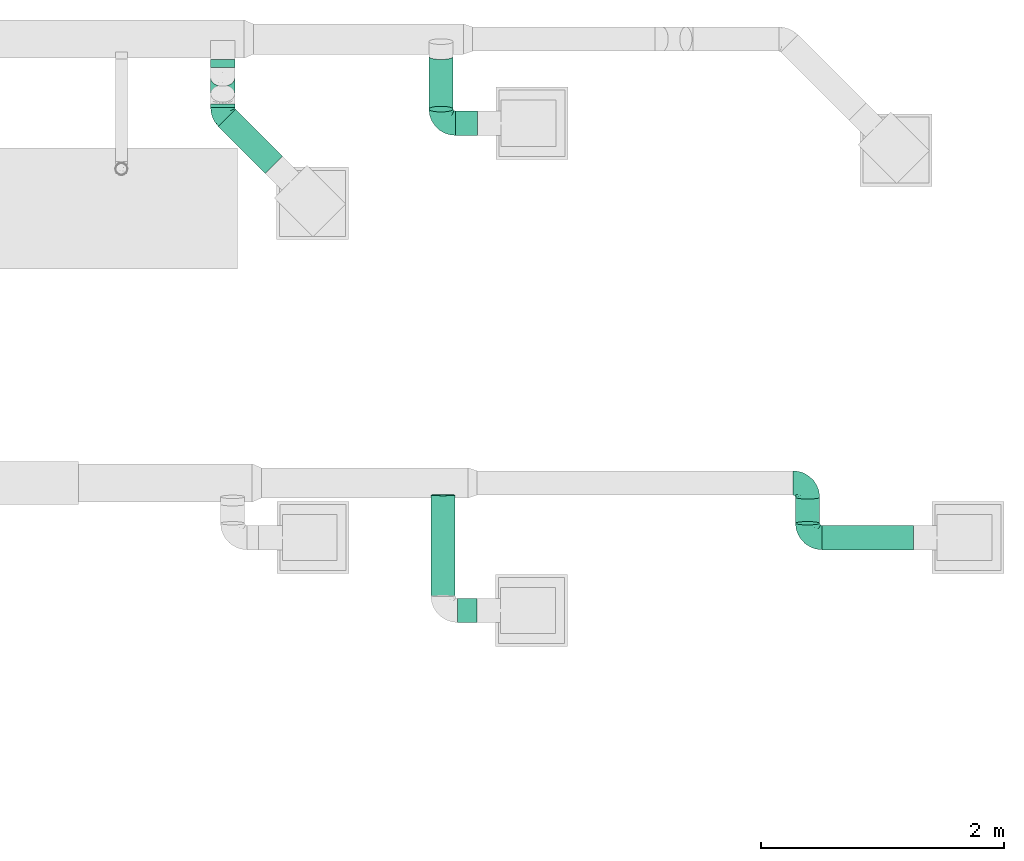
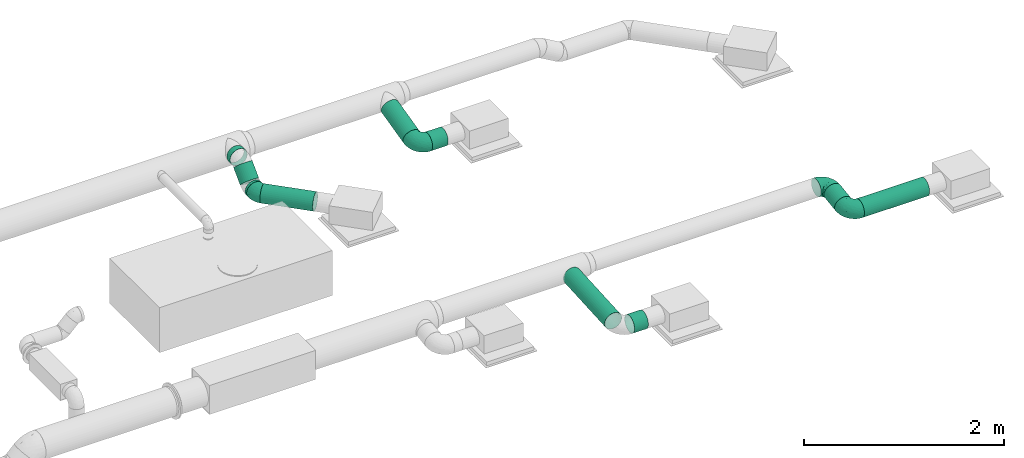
# One storey, part 6 of 16: 10 flow segments, 4 flow fittings.
"""IFC2X3 building model written with IfcOpenShell, lengths in millimetres."""

from ifc_helpers import new_model, entity, si_unit, converted_unit, derived_unit, direction, frame, origin_with_axes, origin_2d_with_axis, place, context, subcontext, project, spatial, hollow_circle, extrude, open_shell, surface_model, source, transform, mapped, type_object, element, save


model = new_model("IFC2X3")

# Units and contexts
model_context = context("Model", 3, precision=0.01, world=frame((0.0, 4.29681676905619e-09, 0.0)), true_north=direction((4.01073788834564e-13, 1.0)))
plan_context = context("Plan", 3, precision=0.01, world=frame((0.0, 4.29681676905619e-09, 0.0)), true_north=direction((4.01073788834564e-13, 1.0)))
body_context = subcontext(model_context, "Body", "Model", "MODEL_VIEW")
ifc_project = project(units=[converted_unit("PLANEANGLEUNIT", "DEGREE", entity("IfcPositiveLengthMeasure", 0.0174532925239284), si_unit("PLANEANGLEUNIT", "RADIAN"), dimensions=[0, 0, 0, 0, 0, 0, 0]), si_unit("AREAUNIT", "SQUARE_METRE"), si_unit("LENGTHUNIT", "METRE", prefix="MILLI"), si_unit("MASSUNIT", "GRAM", prefix="KILO"), si_unit("POWERUNIT", "WATT"), si_unit("PRESSUREUNIT", "PASCAL"), si_unit("FORCEUNIT", "NEWTON", prefix="KILO"), si_unit("ELECTRICVOLTAGEUNIT", "VOLT"), si_unit("ELECTRICCURRENTUNIT", "AMPERE"), si_unit("THERMODYNAMICTEMPERATUREUNIT", "DEGREE_CELSIUS"), si_unit("TIMEUNIT", "SECOND"), si_unit("VOLUMEUNIT", "CUBIC_METRE"), derived_unit("LINEARVELOCITYUNIT", [(si_unit("LENGTHUNIT", "METRE"), 1), (si_unit("TIMEUNIT", "SECOND"), -1)]), derived_unit("VOLUMETRICFLOWRATEUNIT", [(si_unit("VOLUMEUNIT", "CUBIC_METRE"), 1), (si_unit("TIMEUNIT", "SECOND"), -1)]), derived_unit("THERMALTRANSMITTANCEUNIT", [(si_unit("POWERUNIT", "WATT"), 1), (si_unit("THERMODYNAMICTEMPERATUREUNIT", "KELVIN"), -1), (si_unit("AREAUNIT", "SQUARE_METRE"), -1)]), derived_unit("SOUNDPRESSUREUNIT", [(si_unit("PRESSUREUNIT", "PASCAL"), 1)])], contexts=[model_context, plan_context])

# Site, building, storey
site_placement = place(None, frame((0.0, -4.29681676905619e-09, 0.0), z_axis=(0.0, 0.0, 1.0), x_axis=(1.0, 0.0, 0.0)))
site = spatial("IfcSite", under=ifc_project, at=site_placement, Name="ENGM", CompositionType="ELEMENT")
building_placement = place(site_placement, frame((0.0, 4.29681676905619e-09, 0.0), z_axis=(0.0, 0.0, 1.0), x_axis=(1.0, 0.0, 0.0)))
building = spatial("IfcBuilding", under=site, at=building_placement, Name="TH", CompositionType="ELEMENT")
storey_placement = place(building_placement, frame((0.0, 0.0, 210200.0), z_axis=(0.0, 0.0, 1.0), x_axis=(1.0, 0.0, 0.0)))
storey = spatial("IfcBuildingStorey", under=building, at=storey_placement, Name="Nivå F - 0,7 m", CompositionType="ELEMENT", Elevation=210200.0)

# Flow fittings
duct_fitting_type = type_object("IfcDuctFittingType", Name="magicirc_elbow_short_001", PredefinedType="BEND")
shared_shape_1 = source(origin_with_axes(), body_context, "Body", "SurfaceModel", [
    surface_model("IfcShellBasedSurfaceModel", [(-120.0, 0.0, -100.0), (-120.0, -86.60254, -50.0), (-120.0, 25.8819, -96.59259), (-120.0, 50.0, -86.60254), (-120.0, 70.71068, -70.71068), (-120.0, 96.59259, -25.8819), (-120.0, 86.60254, -50.0), (-120.0, -50.0, -86.60254), (-120.0, -70.71068, -70.71068), (-120.0, -25.8819, -96.59259), (-120.0, -96.59259, -25.8819), (-120.0, -100.0, 0.0), (-120.0, 96.59259, 25.8819), (-120.0, -96.59259, 25.8819), (-120.0, 86.60254, 50.0), (-120.0, 25.8819, 96.59259), (-120.0, 50.0, 86.60254), (-120.0, 70.71068, 70.71068), (-120.0, -25.8819, 96.59259), (-120.0, -70.71068, 70.71068), (-120.0, -50.0, 86.60254), (-120.0, -86.60254, 50.0), (-120.0, 0.0, 100.0), (-120.0, 100.0, 0.0), (-25.8819, 120.0, -96.59259), (70.71068, 120.0, -70.71068), (0.0, 120.0, -100.0), (-70.71068, 120.0, -70.71068), (-50.0, 120.0, -86.60254), (-86.60254, 120.0, -50.0), (-96.59259, 120.0, -25.8819), (86.60254, 120.0, -50.0), (25.8819, 120.0, -96.59259), (50.0, 120.0, -86.60254), (100.0, 120.0, 0.0), (96.59259, 120.0, -25.8819), (-96.59259, 120.0, 25.8819), (96.59259, 120.0, 25.8819), (-25.8819, 120.0, 96.59259), (-86.60254, 120.0, 50.0), (-70.71068, 120.0, 70.71068), (-50.0, 120.0, 86.60254), (25.8819, 120.0, 96.59259), (86.60254, 120.0, 50.0), (50.0, 120.0, 86.60254), (70.71068, 120.0, 70.71068), (0.0, 120.0, 100.0), (-100.0, 120.0, 0.0), (-57.47657, 95.22229, 84.95805), (-85.33946, -92.96309, 28.79275), (-95.20929, -97.20676, 0.0), (-84.48473, -65.01559, 72.95431), (-52.96075, -70.60035, 57.16979), (-58.29219, -58.77958, 72.2572), (-71.0454, -94.48414, 0.0), (-33.46621, 86.30074, 96.24781), (-7.45333, 88.76819, 99.94878), (-26.53059, -25.83103, 84.66541), (5.23459, -24.1841, 70.44192), (-1.23107, 1.23105, 87.74618), (-103.71213, 103.71213, 24.44784), (-95.28171, 98.70414, 48.64074), (-78.83961, -43.63421, 87.3226), (48.45058, -8.12007, 40.03254), (39.62941, -27.51041, 22.8702), (55.13075, -9.11298, 21.86769), (27.15427, -27.15428, 47.29752), (-0.9865, -46.35038, 53.41318), (-49.25997, -85.42957, 23.21428), (-69.41482, -80.94006, 48.93369), (34.63169, 2.36241, 66.9375), (-59.03727, -17.74459, 95.19283), (-92.36993, -18.34983, 97.75252), (-98.24586, -81.70799, 55.95793), (-87.21661, 7.38787, 99.96319), (-79.82304, 33.86298, 96.83649), (-103.25245, 34.36931, 94.48617), (-49.8635, 16.95363, 99.89181), (-93.99414, 57.52782, 85.21417), (-13.524, 31.6217, 98.29715), (-30.34675, -2.85909, 94.71053), (-102.74619, 77.59979, 67.01377), (-105.2102, 88.7141, 52.03645), (94.48414, 71.0454, 0.0), (92.96309, 85.33946, 28.79275), (85.42957, 49.25997, 23.21428), (18.34983, 92.36993, 97.75252), (-37.44754, -44.66633, 76.66985), (-66.8783, 56.54931, 92.80405), (65.01559, 84.48473, 72.95431), (43.6342, 78.83961, 87.3226), (37.67702, 38.38344, 81.78155), (58.58205, 33.30331, 61.93165), (58.77958, 58.29217, 72.2572), (14.52663, -47.57763, 31.54394), (81.70799, 98.24586, 55.95793), (97.20676, 95.20929, 0.0), (75.2275, 38.8764, 40.54554), (80.94006, 69.41482, 48.93369), (-19.32309, 64.21329, 99.87988), (-105.85786, 105.85786, 0.0), (17.74458, 59.03726, 95.19283), (70.60036, 52.96074, 57.16978), (-82.76473, 82.76473, 73.92657), (-77.59979, 102.74619, 67.01377), (-38.87641, -75.2275, 40.54555), (-40.86148, 50.04827, 98.96107), (-25.82378, -76.70765, 19.45345), (-49.50418, 71.23352, 93.94065), (-57.3172, 35.12243, 98.9453), (65.10804, 3.68891, 0.0), (65.80674, 11.30259, 30.40508), (15.01777, 28.10412, 90.12797), (-0.1518, 65.0789, 99.29745), (-47.79548, -86.34864, 0.0), (-67.45496, 75.91085, 85.7741), (-3.68891, -65.10804, 0.0), (17.16776, -52.00293, 0.0), (-11.30259, -65.80674, 30.40508), (-24.54558, -78.21315, 0.0), (76.76895, 27.91333, 23.28633), (86.34864, 47.79548, 0.0), (58.40844, 13.74403, 48.13414), (52.00293, -17.16776, 0.0), (20.33542, 8.19535, 80.42602), (-51.11653, -33.50476, 87.58865), (-33.30333, -58.58206, 61.93166), (-17.26255, -60.80757, 47.57586), (78.21315, 24.54558, 0.0), (34.58534, -34.58534, 0.0), (-86.30074, 33.4662, -96.24781), (-34.36932, 103.25245, -94.48617), (-11.30259, -65.80673, -30.40508), (9.11298, -55.13075, -21.86769), (-98.24586, -81.70799, -55.95793), (-88.7682, 7.45333, -99.94878), (43.63421, 78.83961, -87.3226), (-98.70414, 95.28171, -48.64074), (-82.76473, 82.76473, -73.92657), (-102.74619, 77.59979, -67.01377), (85.42957, 49.25997, -23.21428), (75.22749, 38.8764, -40.54555), (80.94006, 69.41482, -48.93369), (27.15427, -27.15428, -47.29753), (47.57763, -14.52663, -31.54396), (27.51041, -39.62941, -22.8702), (-71.23352, 49.50417, -93.94066), (-56.54932, 66.8783, -92.80405), (-50.04827, 40.86148, -98.96107), (-33.86298, 79.82303, -96.83649), (-57.52782, 93.99414, -85.21417), (-16.95364, 49.8635, -99.89182), (-31.6217, 13.52399, -98.29715), (-85.33946, -92.96309, -28.79275), (24.18408, -5.23461, -70.44192), (46.35038, 0.9865, -53.41318), (65.01559, 84.48472, -72.95431), (-84.48473, -65.01559, -72.95431), (-78.83961, -43.63421, -87.3226), (-103.71213, 103.71213, -24.44784), (-95.22229, 57.47657, -84.95805), (-49.25997, -85.42957, -23.21428), (-92.36993, -18.34984, -97.75252), (-38.87641, -75.2275, -40.54555), (-69.41482, -80.94006, -48.93369), (-88.7141, 105.2102, -52.03645), (-7.38786, 87.21659, -99.96319), (17.74459, 59.03726, -95.19283), (-33.30333, -58.58206, -61.93166), (-52.96075, -70.60035, -57.16979), (-77.59979, 102.74619, -67.01377), (-38.38346, -37.67703, -81.78155), (-2.36242, -34.6317, -66.93751), (18.34983, 92.36993, -97.75252), (81.70799, 98.24586, -55.95793), (8.12006, -48.45058, -40.03254), (-1.23106, 1.23105, -87.74618), (25.83103, 26.53058, -84.6654), (92.96309, 85.33946, -28.79275), (76.70765, 25.82378, -19.45345), (-59.03727, -17.74459, -95.19283), (2.8591, 30.34673, -94.71053), (-64.21329, 19.32309, -99.87988), (58.77958, 58.29219, -72.2572), (70.60035, 52.96075, -57.16979), (-58.29219, -58.77958, -72.2572), (-35.12244, 57.3172, -98.9453), (44.66633, 37.44754, -76.66985), (-28.10413, -15.01778, -90.12797), (-65.07891, 0.1518, -99.29745), (-75.91086, 67.45496, -85.7741), (-27.91333, -76.76895, -23.28633), (-13.74403, -58.40844, -48.13415), (65.80673, 11.30258, -30.40508), (-8.19536, -20.33543, -80.42602), (33.50476, 51.11653, -87.58865), (58.58205, 33.30333, -61.93166), (60.80757, 17.26255, -47.57586)], [open_shell([[[0, 1, 2]], [[3, 2, 4]], [[5, 6, 4]], [[1, 4, 2]], [[4, 1, 5]], [[7, 8, 9]], [[8, 0, 9]], [[10, 11, 1]], [[1, 0, 8]], [[1, 11, 5]], [[11, 12, 5]], [[12, 11, 13]], [[14, 12, 15]], [[15, 16, 17]], [[14, 15, 17]], [[15, 12, 18]], [[19, 20, 21]], [[13, 21, 20]], [[13, 20, 12]], [[20, 18, 12]], [[18, 22, 15]], [[23, 5, 12]], [[24, 25, 26]], [[27, 24, 28]], [[27, 29, 30]], [[24, 27, 31]], [[30, 31, 27]], [[32, 25, 33]], [[32, 26, 25]], [[31, 34, 35]], [[25, 24, 31]], [[30, 34, 31]], [[30, 36, 34]], [[37, 34, 36]], [[38, 36, 39]], [[40, 41, 38]], [[40, 38, 39]], [[42, 36, 38]], [[43, 44, 45]], [[44, 43, 37]], [[36, 44, 37]], [[36, 42, 44]], [[38, 46, 42]], [[36, 30, 47]], [[41, 40, 48]], [[49, 13, 50]], [[49, 21, 13]], [[51, 52, 53]], [[50, 54, 49]], [[38, 55, 56]], [[57, 58, 59]], [[60, 61, 36]], [[20, 51, 62]], [[63, 64, 65]], [[66, 58, 67]], [[49, 68, 69]], [[20, 19, 51]], [[58, 66, 70]], [[62, 71, 72]], [[22, 18, 72]], [[73, 19, 21]], [[74, 75, 76]], [[75, 74, 77]], [[16, 76, 78]], [[79, 77, 80]], [[17, 81, 14]], [[82, 12, 14]], [[81, 82, 14]], [[23, 12, 60]], [[83, 84, 85]], [[16, 78, 17]], [[41, 48, 55]], [[42, 46, 86]], [[53, 87, 62]], [[18, 20, 62]], [[75, 88, 78]], [[89, 45, 44]], [[86, 90, 42]], [[60, 12, 82]], [[44, 42, 90]], [[91, 92, 93]], [[84, 37, 43]], [[66, 94, 64]], [[90, 89, 44]], [[45, 95, 43]], [[84, 96, 37]], [[97, 85, 98]], [[15, 76, 16]], [[99, 56, 55]], [[100, 23, 60]], [[91, 90, 101]], [[100, 60, 47]], [[92, 97, 102]], [[103, 104, 61]], [[68, 105, 69]], [[106, 77, 79]], [[61, 39, 36]], [[40, 39, 104]], [[15, 22, 74]], [[107, 105, 68]], [[108, 88, 106]], [[55, 38, 41]], [[56, 46, 38]], [[92, 91, 70]], [[109, 77, 106]], [[110, 111, 65]], [[74, 71, 77]], [[72, 74, 22]], [[80, 71, 57]], [[75, 109, 88]], [[81, 78, 103]], [[112, 79, 59]], [[113, 56, 99]], [[68, 54, 114]], [[73, 49, 69]], [[95, 84, 43]], [[85, 84, 98]], [[104, 48, 40]], [[115, 88, 108]], [[108, 99, 55]], [[56, 113, 86]], [[102, 93, 92]], [[95, 89, 98]], [[73, 51, 19]], [[52, 69, 105]], [[116, 117, 118]], [[68, 119, 107]], [[107, 116, 118]], [[67, 94, 66]], [[97, 111, 120]], [[85, 121, 83]], [[70, 63, 122]], [[65, 123, 110]], [[101, 112, 91]], [[66, 64, 63]], [[124, 91, 112]], [[70, 124, 58]], [[59, 80, 57]], [[58, 87, 67]], [[57, 125, 87]], [[58, 57, 87]], [[99, 108, 106]], [[78, 88, 115]], [[56, 86, 46]], [[90, 86, 101]], [[62, 72, 18]], [[74, 72, 71]], [[61, 104, 39]], [[104, 103, 115]], [[78, 81, 17]], [[82, 103, 61]], [[126, 127, 67]], [[67, 127, 94]], [[85, 128, 121]], [[94, 129, 64]], [[110, 120, 111]], [[63, 65, 111]], [[122, 63, 111]], [[70, 66, 63]], [[79, 80, 59]], [[77, 71, 80]], [[106, 79, 99]], [[113, 79, 101]], [[55, 48, 108]], [[48, 104, 115]], [[48, 115, 108]], [[78, 115, 103]], [[127, 105, 118]], [[105, 127, 52]], [[53, 52, 126]], [[51, 69, 52]], [[87, 53, 126]], [[62, 51, 53]], [[87, 126, 67]], [[57, 71, 125]], [[71, 62, 125]], [[62, 87, 125]], [[102, 97, 98]], [[122, 97, 92]], [[98, 89, 102]], [[93, 102, 89]], [[89, 90, 93]], [[91, 93, 90]], [[97, 122, 111]], [[70, 122, 92]], [[79, 113, 99]], [[86, 113, 101]], [[64, 123, 65]], [[85, 97, 120]], [[79, 112, 101]], [[120, 110, 128]], [[124, 112, 59]], [[58, 124, 59]], [[91, 124, 70]], [[103, 82, 81]], [[82, 61, 60]], [[13, 11, 50]], [[96, 84, 83]], [[96, 34, 37]], [[47, 60, 36]], [[74, 76, 15]], [[78, 76, 75]], [[49, 73, 21]], [[51, 73, 69]], [[89, 95, 45]], [[84, 95, 98]], [[88, 109, 106]], [[75, 77, 109]], [[54, 68, 49]], [[114, 119, 68]], [[105, 107, 118]], [[107, 119, 116]], [[117, 94, 118]], [[127, 126, 52]], [[94, 127, 118]], [[129, 94, 117]], [[129, 123, 64]], [[128, 85, 120]], [[3, 130, 2]], [[24, 131, 28]], [[132, 133, 116]], [[8, 134, 1]], [[2, 135, 0]], [[32, 33, 136]], [[137, 138, 139]], [[140, 141, 142]], [[6, 139, 4]], [[143, 144, 145]], [[6, 5, 137]], [[146, 147, 148]], [[149, 147, 150]], [[148, 151, 152]], [[1, 153, 10]], [[143, 154, 155]], [[153, 50, 10]], [[33, 25, 156]], [[157, 7, 158]], [[159, 137, 5]], [[8, 7, 157]], [[7, 9, 158]], [[3, 4, 160]], [[35, 34, 96]], [[54, 153, 161]], [[9, 162, 158]], [[163, 161, 164]], [[165, 30, 29]], [[23, 100, 159]], [[166, 167, 151]], [[47, 30, 159]], [[168, 163, 169]], [[29, 170, 165]], [[24, 26, 166]], [[168, 171, 172]], [[27, 170, 29]], [[149, 131, 166]], [[160, 130, 3]], [[149, 166, 151]], [[136, 167, 173]], [[174, 25, 31]], [[27, 28, 150]], [[28, 131, 150]], [[32, 173, 26]], [[136, 33, 156]], [[154, 143, 172]], [[2, 130, 135]], [[133, 175, 145]], [[154, 176, 177]], [[9, 0, 162]], [[140, 142, 178]], [[179, 141, 140]], [[96, 83, 178]], [[35, 96, 178]], [[171, 158, 180]], [[152, 151, 181]], [[182, 135, 130]], [[183, 156, 184]], [[171, 168, 185]], [[178, 31, 35]], [[173, 166, 26]], [[159, 5, 23]], [[149, 151, 186]], [[183, 187, 136]], [[181, 167, 177]], [[149, 186, 147]], [[170, 150, 138]], [[188, 152, 176]], [[189, 135, 182]], [[134, 153, 1]], [[161, 153, 164]], [[140, 83, 121]], [[174, 178, 142]], [[139, 160, 4]], [[190, 147, 146]], [[146, 182, 130]], [[135, 189, 162]], [[169, 185, 168]], [[134, 157, 164]], [[174, 156, 25]], [[184, 142, 141]], [[163, 132, 191]], [[161, 114, 54]], [[172, 175, 192]], [[133, 117, 116]], [[110, 123, 193]], [[140, 128, 179]], [[179, 110, 193]], [[155, 144, 143]], [[180, 188, 171]], [[143, 145, 175]], [[194, 171, 188]], [[172, 194, 154]], [[176, 181, 177]], [[154, 187, 155]], [[177, 195, 187]], [[154, 177, 187]], [[182, 146, 148]], [[150, 147, 190]], [[135, 162, 0]], [[158, 162, 180]], [[136, 173, 32]], [[166, 173, 167]], [[137, 139, 6]], [[139, 138, 190]], [[150, 170, 27]], [[165, 138, 137]], [[196, 197, 155]], [[155, 197, 144]], [[197, 196, 184]], [[144, 129, 145]], [[116, 191, 132]], [[175, 133, 132]], [[192, 175, 132]], [[172, 143, 175]], [[152, 181, 176]], [[151, 167, 181]], [[148, 152, 182]], [[189, 152, 180]], [[130, 160, 146]], [[160, 139, 190]], [[160, 190, 146]], [[150, 190, 138]], [[169, 163, 164]], [[192, 163, 168]], [[164, 157, 169]], [[185, 169, 157]], [[157, 158, 185]], [[171, 185, 158]], [[197, 141, 193]], [[141, 197, 184]], [[183, 184, 196]], [[156, 142, 184]], [[187, 183, 196]], [[136, 156, 183]], [[187, 196, 155]], [[177, 167, 195]], [[167, 136, 195]], [[136, 187, 195]], [[163, 192, 132]], [[172, 192, 168]], [[152, 189, 182]], [[162, 189, 180]], [[145, 117, 133]], [[161, 163, 191]], [[152, 188, 180]], [[191, 116, 119]], [[194, 188, 176]], [[154, 194, 176]], [[171, 194, 172]], [[138, 165, 170]], [[165, 137, 159]], [[50, 153, 54]], [[50, 11, 10]], [[47, 159, 100]], [[159, 30, 165]], [[166, 131, 24]], [[150, 131, 149]], [[178, 174, 31]], [[156, 174, 142]], [[157, 134, 8]], [[153, 134, 164]], [[151, 148, 186]], [[147, 186, 148]], [[161, 119, 114]], [[83, 140, 178]], [[121, 128, 140]], [[141, 179, 193]], [[179, 128, 110]], [[123, 144, 193]], [[144, 197, 193]], [[129, 144, 123]], [[129, 117, 145]], [[119, 161, 191]]])]),
])
for number, where, z_axis, x_axis, name in (
    (1, (906576.49216, 482676.69257, 2861.60000000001), (0.0, -0.139551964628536, 0.990214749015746), (0.0, 0.990214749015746, 0.139551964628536), "magicirc_elbow_short_001"),
    (2, (906576.49216, 482225.40642, 2798.0), (0.0, -0.139551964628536, 0.990214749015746), (0.0, -0.990214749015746, -0.139551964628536), "magicirc_elbow_short_001"),
    (3, (903553.5, 485642.90642, 2598.0), (0.0, -0.236573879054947, 0.971613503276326), (0.0, -0.971613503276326, -0.236573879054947), "magicirc_elbow_short_001"),
):
    element("IfcFlowFitting", number, at=place(storey_placement, frame(where, z_axis=z_axis, x_axis=x_axis)), inside=storey, type_object=duct_fitting_type, Name=name, context=body_context, shape_type="MappedRepresentation", body=[
        mapped(shared_shape_1, transform((0.0, 0.0, 0.0), scale=1.0)),
    ])
shared_shape_2 = source(origin_with_axes(), body_context, "Body", "SurfaceModel", [
    surface_model("IfcShellBasedSurfaceModel", [(-49.70563, 0.0, -100.0), (-49.70563, -70.71068, -70.71068), (-49.70563, 25.8819, -96.59259), (-49.70563, 50.0, -86.60254), (-49.70563, 70.71068, -70.71068), (-49.70563, 96.59259, -25.8819), (-49.70563, 86.60254, -50.0), (-49.70563, -86.60254, -50.0), (-49.70563, -50.0, -86.60254), (-49.70563, -25.8819, -96.59259), (-49.70563, -96.59259, -25.8819), (-49.70563, -100.0, 0.0), (-49.70563, 96.59259, 25.8819), (-49.70563, 25.8819, 96.59259), (-49.70563, 86.60254, 50.0), (-49.70563, 50.0, 86.60254), (-49.70563, 70.71068, 70.71068), (-49.70563, -25.8819, 96.59259), (-49.70563, -70.71068, 70.71068), (-49.70563, -50.0, 86.60254), (-49.70563, -86.60254, 50.0), (-49.70563, -96.59259, 25.8819), (-49.70563, 0.0, 100.0), (-49.70563, 100.0, 0.0), (-33.15408, 103.44845, -25.8819), (35.14719, 35.14719, -100.0), (16.84592, 53.44845, -96.59259), (-0.20815, 70.50252, -86.60254), (-14.85281, 85.14718, -70.71068), (-26.09006, 96.38443, -50.0), (105.85786, -35.56349, 0.0), (53.44845, 16.84592, -96.59259), (85.14718, -14.85281, -70.71068), (70.50252, -0.20815, -86.60254), (96.38443, -26.09006, -50.0), (103.44845, -33.15408, -25.8819), (-35.56349, 105.85786, 0.0), (-33.15408, 103.44845, 25.8819), (16.84592, 53.44845, 96.59259), (-14.85281, 85.14718, 70.71068), (-26.09006, 96.38443, 50.0), (-0.20815, 70.50252, 86.60254), (53.44845, 16.84592, 96.59259), (96.38443, -26.09006, 50.0), (70.50252, -0.20815, 86.60254), (85.14718, -14.85281, 70.71068), (103.44845, -33.15408, 25.8819), (35.14719, 35.14719, 100.0), (-6.6598, -78.69465, 55.32131), (-18.13182, -91.89202, 33.47277), (-24.86596, -97.5535, 0.0), (-6.78576, -95.77276, 0.0), (22.4948, -82.45996, 31.38069), (29.12436, -69.42702, 52.39492), (12.37742, -29.88175, 90.64522), (37.12404, -18.70607, 89.97421), (4.68854, -11.31914, 97.51858), (-18.23098, -62.02139, 76.22982), (-13.02348, -39.47786, 89.97421), (22.87885, -55.23445, 71.73393), (-24.78682, -14.914, 98.5104), (-21.4119, 11.5723, 99.68416), (7.39001, 23.69873, 99.67584), (-15.97928, 38.57739, 94.78597), (-33.08073, 79.86395, 64.3352), (-23.56301, 62.37217, 82.35825), (34.48473, -83.25349, 0.0), (42.49429, -77.90552, 18.20627), (-42.05196, 101.52241, 0.0), (72.51982, -62.92332, 0.0), (86.56363, -51.39786, 0.0), (63.91857, -66.3633, 18.52111), (-38.64634, 93.30051, 41.23913), (50.71646, -68.42721, 35.42055), (77.79859, -52.15634, 33.47277), (60.35471, -50.93634, 55.32131), (28.07272, 6.98114, 98.51039), (56.74698, -30.96451, 76.22981), (53.50228, -73.08841, 0.0), (13.84949, -89.51313, 0.0), (60.35471, -50.93633, -55.32131), (37.12405, -18.70607, -89.97421), (-21.98306, 11.532, -99.67584), (-24.78682, -14.91401, -98.51039), (-38.64634, 93.30051, -41.23913), (-33.08073, 79.86395, -64.3352), (-27.44222, 60.76535, -82.35825), (-15.97928, 38.57738, -94.78597), (12.37743, -29.88176, -90.64522), (22.87886, -55.23445, -71.73393), (-13.02348, -39.47786, -89.97421), (6.95764, 23.32334, -99.68416), (-6.6598, -78.69465, -55.32131), (-18.13182, -91.89201, -33.47277), (77.79859, -52.15634, -33.47277), (4.68854, -11.31915, -97.51858), (-18.23098, -62.02139, -76.22982), (42.40175, -74.21422, -31.3807), (12.52338, -84.24729, -35.42055), (28.49827, -69.68635, -52.39492), (25.03953, -85.13551, -18.20628), (1.72869, -92.12319, -18.52111), (28.07272, 6.98113, -98.51039), (56.74699, -30.96449, -76.22982)], [open_shell([[[0, 1, 2]], [[3, 2, 4]], [[5, 6, 4]], [[7, 4, 2]], [[4, 7, 5]], [[8, 1, 9]], [[1, 0, 9]], [[10, 11, 7]], [[7, 2, 1]], [[7, 11, 5]], [[11, 12, 5]], [[13, 12, 11]], [[14, 12, 13]], [[13, 15, 16]], [[14, 13, 16]], [[17, 13, 11]], [[18, 19, 20]], [[21, 20, 19]], [[19, 17, 21]], [[21, 17, 11]], [[17, 22, 13]], [[12, 23, 5]], [[24, 25, 26]], [[24, 26, 27]], [[28, 29, 24]], [[28, 24, 27]], [[25, 24, 30]], [[31, 32, 33]], [[31, 25, 32]], [[34, 30, 35]], [[30, 34, 32]], [[25, 30, 32]], [[24, 36, 30]], [[30, 37, 38]], [[39, 37, 40]], [[41, 38, 37]], [[41, 37, 39]], [[30, 38, 42]], [[43, 44, 45]], [[43, 46, 30]], [[30, 44, 43]], [[44, 30, 42]], [[38, 47, 42]], [[30, 36, 37]], [[48, 20, 49]], [[50, 51, 49]], [[48, 52, 53]], [[54, 55, 56]], [[19, 57, 58]], [[58, 57, 59]], [[18, 20, 48]], [[56, 60, 58]], [[60, 22, 17]], [[13, 22, 61]], [[56, 62, 61]], [[17, 19, 58]], [[49, 20, 21]], [[15, 13, 63]], [[64, 65, 39]], [[64, 14, 16]], [[63, 13, 61]], [[19, 18, 57]], [[66, 67, 52]], [[68, 12, 37]], [[69, 70, 71]], [[68, 23, 12]], [[12, 14, 72]], [[73, 74, 75]], [[65, 15, 63]], [[60, 61, 22]], [[48, 49, 52]], [[18, 48, 57]], [[42, 76, 55]], [[49, 21, 50]], [[75, 43, 45]], [[44, 42, 55]], [[54, 59, 55]], [[74, 43, 75]], [[45, 44, 77]], [[55, 77, 44]], [[74, 70, 46]], [[52, 73, 53]], [[42, 47, 76]], [[56, 76, 62]], [[64, 40, 72]], [[63, 62, 38]], [[37, 72, 40]], [[73, 71, 74]], [[36, 68, 37]], [[38, 41, 63]], [[47, 38, 62]], [[77, 59, 75]], [[39, 65, 41]], [[43, 74, 46]], [[41, 65, 63]], [[61, 62, 63]], [[15, 65, 16]], [[59, 77, 55]], [[67, 78, 71]], [[75, 45, 77]], [[59, 57, 48]], [[65, 64, 16]], [[39, 40, 64]], [[53, 75, 59]], [[21, 11, 50]], [[75, 53, 73]], [[48, 53, 59]], [[58, 60, 17]], [[61, 60, 56]], [[62, 76, 47]], [[55, 76, 56]], [[71, 73, 67]], [[12, 72, 37]], [[73, 52, 67]], [[49, 79, 52]], [[78, 67, 66]], [[78, 69, 71]], [[74, 71, 70]], [[70, 30, 46]], [[64, 72, 14]], [[56, 58, 54]], [[59, 54, 58]], [[79, 49, 51]], [[79, 66, 52]], [[32, 34, 80]], [[31, 33, 81]], [[0, 2, 82]], [[83, 9, 0]], [[6, 84, 85]], [[27, 86, 28]], [[87, 3, 86]], [[3, 4, 86]], [[88, 89, 90]], [[26, 25, 91]], [[84, 5, 24]], [[92, 93, 7]], [[94, 35, 70]], [[93, 50, 10]], [[95, 82, 91]], [[96, 8, 90]], [[97, 98, 99]], [[96, 1, 8]], [[7, 93, 10]], [[98, 93, 92]], [[1, 92, 7]], [[8, 9, 90]], [[100, 79, 101]], [[96, 89, 92]], [[66, 100, 97]], [[5, 23, 68]], [[92, 1, 96]], [[68, 36, 24]], [[87, 82, 2]], [[95, 83, 82]], [[24, 29, 84]], [[27, 87, 86]], [[80, 97, 99]], [[3, 87, 2]], [[83, 90, 9]], [[27, 26, 87]], [[6, 85, 4]], [[81, 88, 95]], [[87, 26, 91]], [[81, 95, 102]], [[91, 82, 87]], [[89, 81, 103]], [[81, 33, 103]], [[94, 34, 35]], [[25, 31, 102]], [[94, 80, 34]], [[85, 86, 4]], [[94, 70, 69]], [[51, 50, 101]], [[98, 101, 93]], [[97, 80, 94]], [[33, 32, 103]], [[102, 91, 25]], [[89, 103, 80]], [[24, 5, 68]], [[89, 96, 90]], [[32, 80, 103]], [[29, 28, 85]], [[86, 85, 28]], [[99, 92, 89]], [[93, 101, 50]], [[92, 99, 98]], [[80, 99, 89]], [[82, 83, 0]], [[90, 83, 95]], [[81, 102, 31]], [[91, 102, 95]], [[101, 98, 100]], [[85, 84, 29]], [[98, 97, 100]], [[94, 78, 97]], [[79, 100, 66]], [[79, 51, 101]], [[50, 11, 10]], [[5, 84, 6]], [[35, 30, 70]], [[89, 88, 81]], [[90, 95, 88]], [[78, 94, 69]], [[78, 66, 97]]])]),
])
flow_fitting_placement = place(storey_placement, frame((901753.5, 485721.90642, 2598.0), z_axis=(0.0, 0.0, 1.0), x_axis=(0.0, -1.0, 0.0)))
element("IfcFlowFitting", 4, at=flow_fitting_placement, inside=storey, type_object=duct_fitting_type, Name="magicirc_elbow_short_001", context=body_context, shape_type="MappedRepresentation", body=[
    mapped(shared_shape_2, transform((0.0, 0.0, 0.0), scale=1.0)),
])

# Flow segments
duct_segment_type = type_object("IfcDuctSegmentType", Name="2 - Spiro kanaler, Forsinket stål", PredefinedType="RIGIDSEGMENT")
shared_shape_3 = source(origin_with_axes(), body_context, "Body", "SweptSolid", [
    extrude(hollow_circle(Radius=100.0, WallThickness=2.0, at=origin_2d_with_axis()), frame((0.0, 0.0, 0.0), z_axis=(1.0, 0.0, 0.0), x_axis=(0.0, 1.0, 0.0)), (0.0, 0.0, 1.0), 160.0),
])
flow_segment_1_placement = place(storey_placement, frame((903849.83019, 481625.40642, 2798.0), z_axis=(0.0, 0.990214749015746, 0.139551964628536), x_axis=(-1.0, 0.0, 0.0)))
element("IfcFlowSegment", 5, at=flow_segment_1_placement, inside=storey, type_object=duct_segment_type, Name="2 - Spiro kanaler, Forsinket stål", context=body_context, shape_type="MappedRepresentation", body=[
    mapped(shared_shape_3, transform((0.0, 0.0, 0.0), scale=1.0)),
])
shared_shape_4 = source(origin_with_axes(), body_context, "Body", "SweptSolid", [
    extrude(hollow_circle(Radius=100.0, WallThickness=2.0, at=origin_2d_with_axis()), frame((0.0, 0.0, 0.0), z_axis=(1.0, 0.0, 0.0), x_axis=(0.0, 1.0, 0.0)), (0.0, 0.0, 1.0), 753.3),
])
flow_segment_2_placement = place(storey_placement, frame((907449.83019, 482225.40642, 2798.0), z_axis=(0.0, 0.0, 1.0), x_axis=(-1.0, 0.0, 0.0)))
element("IfcFlowSegment", 6, at=flow_segment_2_placement, inside=storey, type_object=duct_segment_type, Name="2 - Spiro kanaler, Forsinket stål", context=body_context, shape_type="MappedRepresentation", body=[
    mapped(shared_shape_4, transform((0.0, 0.0, 0.0), scale=1.0)),
])
shared_shape_5 = source(origin_with_axes(), body_context, "Body", "SweptSolid", [
    extrude(hollow_circle(Radius=100.0, WallThickness=2.0, at=origin_2d_with_axis()), frame((0.0, 0.0, 0.0), z_axis=(1.0, 0.0, 0.0), x_axis=(0.0, 1.0, 0.0)), (0.0, 0.0, 1.0), 833.2),
])
flow_segment_3_placement = place(storey_placement, frame((903569.83096, 481745.18826, 2805.24536), z_axis=(-3.49999854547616e-05, -0.0603779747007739, 0.998175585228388), x_axis=(5.99999751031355e-06, 0.998175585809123, 0.0603779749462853)))
element("IfcFlowSegment", 7, at=flow_segment_3_placement, inside=storey, type_object=duct_segment_type, Name="2 - Spiro kanaler, Forsinket stål", context=body_context, shape_type="MappedRepresentation", body=[
    mapped(shared_shape_5, transform((0.0, 0.0, 0.0), scale=1.0)),
])
shared_shape_6 = source(origin_with_axes(), body_context, "Body", "SweptSolid", [
    extrude(hollow_circle(Radius=100.0, WallThickness=2.0, at=origin_2d_with_axis()), frame((0.0, 0.0, 0.0), z_axis=(1.0, 0.0, 0.0), x_axis=(0.0, 1.0, 0.0)), (0.0, 0.0, 1.0), 215.7),
])
flow_segment_4_placement = place(storey_placement, frame((906576.49216, 482557.8668, 2844.85381999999), z_axis=(0.0, -0.139551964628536, 0.990214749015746), x_axis=(0.0, -0.990214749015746, -0.139551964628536)))
element("IfcFlowSegment", 8, at=flow_segment_4_placement, inside=storey, type_object=duct_segment_type, Name="2 - Spiro kanaler, Forsinket stål", context=body_context, shape_type="MappedRepresentation", body=[
    mapped(shared_shape_6, transform((0.0, 0.0, 0.0), scale=1.0)),
])
shared_shape_7 = source(origin_with_axes(), body_context, "Body", "SweptSolid", [
    extrude(hollow_circle(Radius=100.0, WallThickness=2.0, at=origin_2d_with_axis()), frame((0.0, 0.0, 0.0), z_axis=(1.0, 0.0, 0.0), x_axis=(0.0, 1.0, 0.0)), (0.0, 0.0, 1.0), 180.0),
])
flow_segment_5_placement = place(storey_placement, frame((903853.5, 485642.90642, 2598.0), z_axis=(0.0, 0.0, 1.0), x_axis=(-1.0, 0.0, 0.0)))
element("IfcFlowSegment", 9, at=flow_segment_5_placement, inside=storey, type_object=duct_segment_type, Name="2 - Spiro kanaler, Forsinket stål", context=body_context, shape_type="MappedRepresentation", body=[
    mapped(shared_shape_7, transform((0.0, 0.0, 0.0), scale=1.0)),
])
shared_shape_8 = source(origin_with_axes(), body_context, "Body", "SweptSolid", [
    extrude(hollow_circle(Radius=100.0, WallThickness=2.0, at=origin_2d_with_axis()), frame((0.0, 0.0, 0.0), z_axis=(1.0, 0.0, 0.0), x_axis=(0.0, 1.0, 0.0)), (0.0, 0.0, 1.0), 445.9),
])
flow_segment_6_placement = place(storey_placement, frame((903553.5, 486192.74586, 2731.87787999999), z_axis=(0.0, -0.236573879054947, 0.971613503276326), x_axis=(0.0, -0.971613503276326, -0.236573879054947)))
element("IfcFlowSegment", 10, at=flow_segment_6_placement, inside=storey, type_object=duct_segment_type, Name="2 - Spiro kanaler, Forsinket stål", context=body_context, shape_type="MappedRepresentation", body=[
    mapped(shared_shape_8, transform((0.0, 0.0, 0.0), scale=1.0)),
])
shared_shape_9 = source(origin_with_axes(), body_context, "Body", "SweptSolid", [
    extrude(hollow_circle(Radius=100.0, WallThickness=2.0, at=origin_2d_with_axis()), frame((0.0, 0.0, 0.0), z_axis=(1.0, 0.0, 0.0), x_axis=(0.0, 1.0, 0.0)), (0.0, 0.0, 1.0), 546.4),
])
flow_segment_7_placement = place(storey_placement, frame((902175.00906, 485300.39736, 2598.0), z_axis=(0.0, 0.0, 1.0), x_axis=(-0.707106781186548, 0.707106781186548, 0.0)))
element("IfcFlowSegment", 11, at=flow_segment_7_placement, inside=storey, type_object=duct_segment_type, Name="2 - Spiro kanaler, Forsinket stål", context=body_context, shape_type="MappedRepresentation", body=[
    mapped(shared_shape_9, transform((0.0, 0.0, 0.0), scale=1.0)),
])
shared_shape_10 = source(origin_with_axes(), body_context, "Body", "SweptSolid", [
    extrude(hollow_circle(Radius=100.0, WallThickness=2.0, at=origin_2d_with_axis()), frame((0.0, 0.0, 0.0), z_axis=(1.0, 0.0, 0.0), x_axis=(0.0, 1.0, 0.0)), (0.0, 0.0, 1.0), 30.9),
])
flow_segment_8_placement = place(storey_placement, frame((901753.5, 485802.55264, 2598.0), z_axis=(0.0, 0.0, 1.0), x_axis=(0.0, -1.0, 0.0)))
element("IfcFlowSegment", 12, at=flow_segment_8_placement, inside=storey, type_object=duct_segment_type, Name="2 - Spiro kanaler, Forsinket stål", context=body_context, shape_type="MappedRepresentation", body=[
    mapped(shared_shape_10, transform((0.0, 0.0, 0.0), scale=1.0)),
])
shared_shape_11 = source(origin_with_axes(), body_context, "Body", "SweptSolid", [
    extrude(hollow_circle(Radius=100.0, WallThickness=2.0, at=origin_2d_with_axis()), frame((0.0, 0.0, 0.0), z_axis=(1.0, 0.0, 0.0), x_axis=(0.0, 1.0, 0.0)), (0.0, 0.0, 1.0), 66.3),
])
flow_segment_9_placement = place(storey_placement, frame((901753.5, 486169.98976, 2799.75511), z_axis=(0.0, 0.0, 1.0), x_axis=(0.0, -1.0, 0.0)))
element("IfcFlowSegment", 13, at=flow_segment_9_placement, inside=storey, type_object=duct_segment_type, Name="2 - Spiro kanaler, Forsinket stål", context=body_context, shape_type="MappedRepresentation", body=[
    mapped(shared_shape_11, transform((0.0, 0.0, 0.0), scale=1.0)),
])
shared_shape_12 = source(origin_with_axes(), body_context, "Body", "SweptSolid", [
    extrude(hollow_circle(Radius=100.0, WallThickness=2.0, at=origin_2d_with_axis()), frame((0.0, 0.0, 0.0), z_axis=(1.0, 0.0, 0.0), x_axis=(0.0, 1.0, 0.0)), (0.0, 0.0, 1.0), 185.9),
])
flow_segment_10_placement = place(storey_placement, frame((901753.5, 486018.86609, 2764.6079), z_axis=(0.0, -0.707106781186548, 0.707106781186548), x_axis=(0.0, -0.707106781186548, -0.707106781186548)))
element("IfcFlowSegment", 14, at=flow_segment_10_placement, inside=storey, type_object=duct_segment_type, Name="2 - Spiro kanaler, Forsinket stål", context=body_context, shape_type="MappedRepresentation", body=[
    mapped(shared_shape_12, transform((0.0, 0.0, 0.0), scale=1.0)),
])

save(model, "model.ifc")
